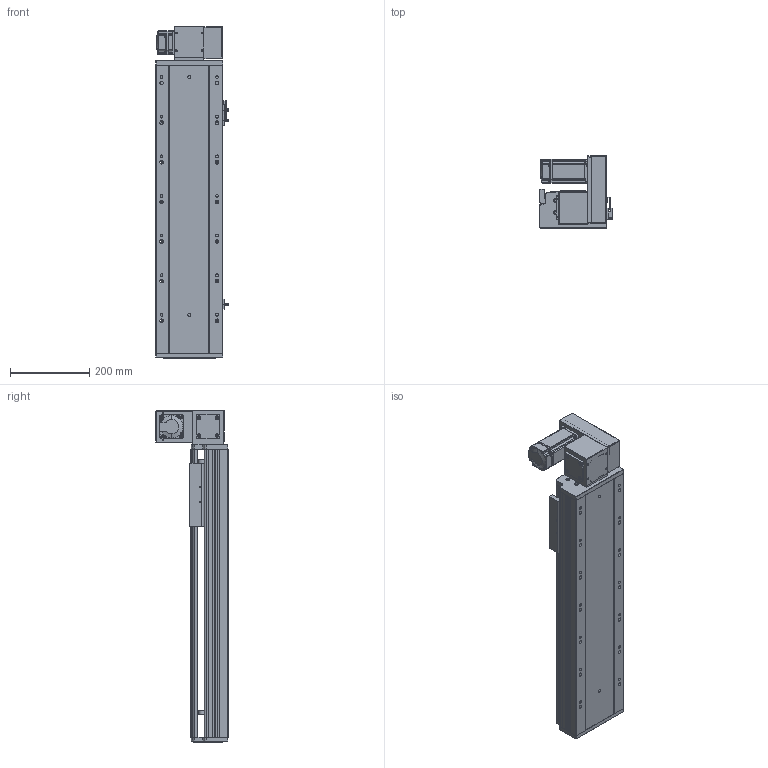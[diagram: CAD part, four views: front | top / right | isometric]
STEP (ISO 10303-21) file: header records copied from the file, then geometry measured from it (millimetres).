
FILE_DESCRIPTION (( 'STEP AP203' ), '1' );
FILE_NAME ('RY170-T-300-UR-P400W.SLDASM_450.step', '2021-03-01T09:26:59', ( '盈信电脑' ), ( '东莞市道滘镇水果街19号' ), 'SwSTEP 2.0', 'SolidWorks 2012', '' );
FILE_SCHEMA (( 'CONFIG_CONTROL_DESIGN' ));
Length unit declared in the file: millimetre
Products named in the file (18): RY170-T-300-UR-P400W.SLDASM_450; 滅袉蝶18-10; 15; RY170-T肮祭謫裔啣; RY170-T蹟翐M4; RY170肮祭謫萇儂欶; RY120-T主同步轮轴承压盖; RY170-T肮祭湍揤踡輸1; RY170-T肮祭湍揤踡輸2; RY170翋肮祭謫釱; RY170肮祭謫ヶ裔啣; RY170同步轮电机安装板(400W); RY170綴裔啣; 覜茼ん672; RY170-T-300肮祭謫倰第裔啣-DR_450; RY170外置感应片(200共用）; RY170肮祭湍臏賑輸; RY170-T-300肮祭謫倰第菁釱-DR_450
Assembly tree (22 placements, depth 2):
  RY170-T-300-UR-P400W.SLDASM_450
    RY170-T-300肮祭謫倰第菁釱-DR_450
    RY170肮祭湍臏賑輸
    RY170-T-300肮祭謫倰第裔啣-DR_450
    RY170綴裔啣
    覜茼ん672  x3
    RY170外置感应片(200共用）
    RY170肮祭謫ヶ裔啣
    RY170翋肮祭謫釱
    RY170同步轮电机安装板(400W)
    RY170肮祭謫萇儂欶
    RY170-T肮祭湍揤踡輸1  x2
    RY170-T肮祭湍揤踡輸2  x2
    RY120-T主同步轮轴承压盖
    RY170-T肮祭謫裔啣
    RY170-T蹟翐M4
    滅袉蝶18-10  x2
    15
Bounding box: 183.7 x 182 x 838 mm (x, y, z)
Volume: 4614503.7 mm3; surface area: 1534229.9 mm2
Topology: 22 solids, 22 shells, 2664 faces, 7394 edges, 4771 vertices
Faces by surface type: plane 1260, cylinder 1174, cone 200, bspline 30
Entity records: 79232 total; most frequent: CARTESIAN_POINT 17566, ORIENTED_EDGE 12568, DIRECTION 12338, EDGE_CURVE 6284, AXIS2_PLACEMENT_3D 4313, VERTEX_POINT 4127, VECTOR 3712, LINE 3712
